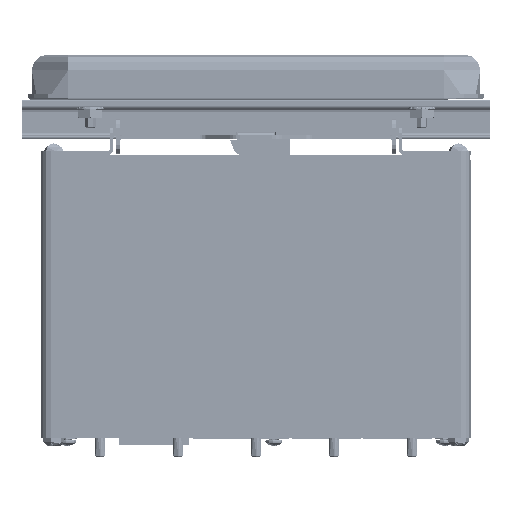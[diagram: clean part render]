
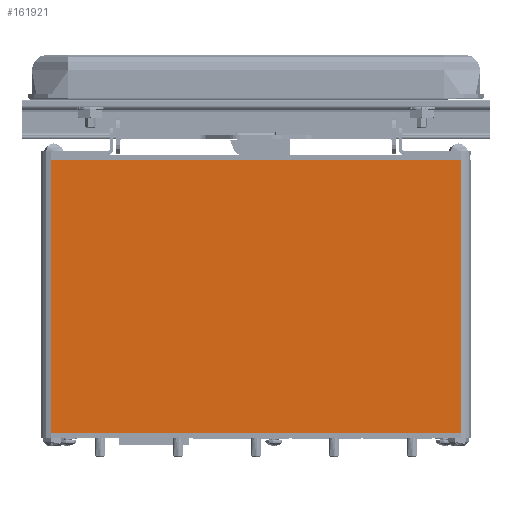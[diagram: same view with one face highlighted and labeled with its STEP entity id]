
A CAD part, front view. The second image highlights one B-rep face of the part: STEP entity #161921.
In plain terms, the highlighted planar face has unit normal (0, -1, 0).
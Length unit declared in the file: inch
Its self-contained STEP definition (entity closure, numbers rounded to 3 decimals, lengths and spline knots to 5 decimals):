
#6380 = VERTEX_POINT ( 'NONE', #326016 ) ;
#30181 = EDGE_LOOP ( 'NONE', ( #117827, #370542, #84762, #345250 ) ) ;
#35242 = VECTOR ( 'NONE', #285123, 39.37008 ) ;
#36095 = EDGE_CURVE ( 'NONE', #6380, #54292, #144265, .T. ) ;
#51683 = CARTESIAN_POINT ( 'NONE',  ( 0., -1.6875, 0. ) ) ;
#54292 = VERTEX_POINT ( 'NONE', #83970 ) ;
#69824 = EDGE_CURVE ( 'NONE', #164186, #54292, #403326, .T. ) ;
#77260 = DIRECTION ( 'NONE',  ( 0., 0., 1. ) ) ;
#83356 = CARTESIAN_POINT ( 'NONE',  ( 2.625, -1.6875, -3.5 ) ) ;
#83970 = CARTESIAN_POINT ( 'NONE',  ( -2.625, -1.6875, 0. ) ) ;
#84762 = ORIENTED_EDGE ( 'NONE', *, *, #88705, .F. ) ;
#88705 = EDGE_CURVE ( 'NONE', #320548, #164186, #192150, .T. ) ;
#117827 = ORIENTED_EDGE ( 'NONE', *, *, #36095, .T. ) ;
#123427 = DIRECTION ( 'NONE',  ( -1., 0., 0. ) ) ;
#133866 = DIRECTION ( 'NONE',  ( -1., 0., 0. ) ) ;
#138157 = CARTESIAN_POINT ( 'NONE',  ( 0., -1.6875, -3.5 ) ) ;
#144265 = LINE ( 'NONE', #51683, #35242 ) ;
#158241 = CARTESIAN_POINT ( 'NONE',  ( 0., -1.6875, -3.5 ) ) ;
#161921 = ADVANCED_FACE ( 'NONE', ( #369714 ), #258278, .T. ) ;
#164186 = VERTEX_POINT ( 'NONE', #270240 ) ;
#192150 = LINE ( 'NONE', #138157, #378413 ) ;
#193160 = DIRECTION ( 'NONE',  ( 0., -1., 0. ) ) ;
#216651 = VECTOR ( 'NONE', #77260, 39.37008 ) ;
#246991 = CARTESIAN_POINT ( 'NONE',  ( -2.625, -1.6875, -3.5 ) ) ;
#252567 = DIRECTION ( 'NONE',  ( 0., 0., 1. ) ) ;
#258278 = PLANE ( 'NONE',  #407353 ) ;
#270240 = CARTESIAN_POINT ( 'NONE',  ( -2.625, -1.6875, -3.5 ) ) ;
#273749 = VECTOR ( 'NONE', #252567, 39.37008 ) ;
#285123 = DIRECTION ( 'NONE',  ( -1., 0., 0. ) ) ;
#290203 = CARTESIAN_POINT ( 'NONE',  ( 2.625, -1.6875, -3.5 ) ) ;
#320548 = VERTEX_POINT ( 'NONE', #83356 ) ;
#326016 = CARTESIAN_POINT ( 'NONE',  ( 2.625, -1.6875, 0. ) ) ;
#345250 = ORIENTED_EDGE ( 'NONE', *, *, #381513, .T. ) ;
#369714 = FACE_OUTER_BOUND ( 'NONE', #30181, .T. ) ;
#370542 = ORIENTED_EDGE ( 'NONE', *, *, #69824, .F. ) ;
#378413 = VECTOR ( 'NONE', #133866, 39.37008 ) ;
#381513 = EDGE_CURVE ( 'NONE', #320548, #6380, #393110, .T. ) ;
#393110 = LINE ( 'NONE', #290203, #273749 ) ;
#403326 = LINE ( 'NONE', #246991, #216651 ) ;
#407353 = AXIS2_PLACEMENT_3D ( 'NONE', #158241, #193160, #123427 ) ;
